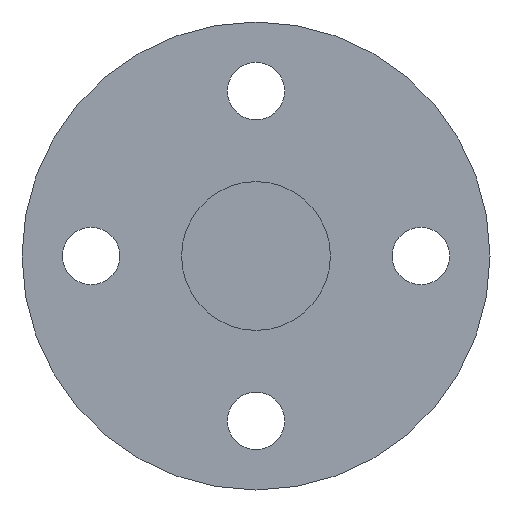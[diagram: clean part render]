
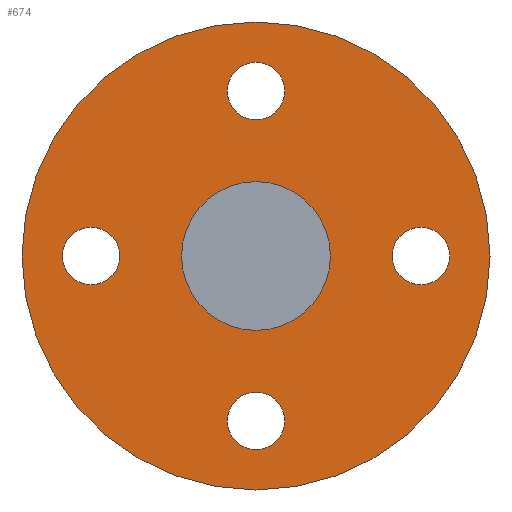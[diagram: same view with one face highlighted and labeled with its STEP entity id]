
A CAD part, left-side view. The second image highlights one B-rep face of the part: STEP entity #674.
In plain terms, the highlighted planar face has unit normal (-1, 0, 0).
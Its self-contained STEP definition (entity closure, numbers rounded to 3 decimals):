
#563=CARTESIAN_POINT('',(135.0,15.5,-2.7));
#564=VERTEX_POINT('',#563);
#565=CARTESIAN_POINT('',(135.0,15.5,0.));
#566=DIRECTION('',(1.0,0.0,0.0));
#567=DIRECTION('',(0.0,0.0,-1.0));
#568=AXIS2_PLACEMENT_3D('',#565,#566,#567);
#569=CIRCLE('',#568,2.7);
#570=EDGE_CURVE('',#564,#564,#569,.T.);
#583=CARTESIAN_POINT('',(135.0,-2.7,-15.5));
#584=VERTEX_POINT('',#583);
#585=CARTESIAN_POINT('',(135.0,0.,-15.5));
#586=DIRECTION('',(1.0,0.0,0.0));
#587=DIRECTION('',(0.0,-1.0,0.0));
#588=AXIS2_PLACEMENT_3D('',#585,#586,#587);
#589=CIRCLE('',#588,2.7);
#590=EDGE_CURVE('',#584,#584,#589,.T.);
#603=CARTESIAN_POINT('',(135.0,-15.5,2.7));
#604=VERTEX_POINT('',#603);
#605=CARTESIAN_POINT('',(135.0,-15.5,0.));
#606=DIRECTION('',(1.0,0.0,0.0));
#607=DIRECTION('',(0.0,0.0,1.0));
#608=AXIS2_PLACEMENT_3D('',#605,#606,#607);
#609=CIRCLE('',#608,2.7);
#610=EDGE_CURVE('',#604,#604,#609,.T.);
#623=CARTESIAN_POINT('',(135.0,2.7,15.5));
#624=VERTEX_POINT('',#623);
#625=CARTESIAN_POINT('',(135.0,0.0,15.5));
#626=DIRECTION('',(1.0,0.0,0.0));
#627=DIRECTION('',(0.0,1.0,0.0));
#628=AXIS2_PLACEMENT_3D('',#625,#626,#627);
#629=CIRCLE('',#628,2.7);
#630=EDGE_CURVE('',#624,#624,#629,.T.);
#635=CARTESIAN_POINT('',(135.0,0.0,14.5));
#636=DIRECTION('',(-1.0,0.0,0.0));
#637=DIRECTION('',(0.0,0.0,1.0));
#638=AXIS2_PLACEMENT_3D('',#635,#636,#637);
#639=PLANE('',#638);
#640=CARTESIAN_POINT('',(135.0,0.0,22.0));
#641=VERTEX_POINT('',#640);
#642=CARTESIAN_POINT('',(135.0,0.0,0.0));
#643=DIRECTION('',(-1.0,0.0,0.0));
#644=DIRECTION('',(0.0,0.0,1.0));
#645=AXIS2_PLACEMENT_3D('',#642,#643,#644);
#646=CIRCLE('',#645,22.0);
#647=EDGE_CURVE('',#641,#641,#646,.T.);
#648=ORIENTED_EDGE('',*,*,#647,.T.);
#649=EDGE_LOOP('',(#648));
#650=FACE_OUTER_BOUND('',#649,.T.);
#651=ORIENTED_EDGE('',*,*,#570,.T.);
#652=EDGE_LOOP('',(#651));
#653=FACE_BOUND('',#652,.T.);
#654=ORIENTED_EDGE('',*,*,#590,.T.);
#655=EDGE_LOOP('',(#654));
#656=FACE_BOUND('',#655,.T.);
#657=ORIENTED_EDGE('',*,*,#610,.T.);
#658=EDGE_LOOP('',(#657));
#659=FACE_BOUND('',#658,.T.);
#660=ORIENTED_EDGE('',*,*,#630,.T.);
#661=EDGE_LOOP('',(#660));
#662=FACE_BOUND('',#661,.T.);
#663=CARTESIAN_POINT('',(135.0,0.0,7.));
#664=VERTEX_POINT('',#663);
#665=CARTESIAN_POINT('',(135.0,0.0,0.0));
#666=DIRECTION('',(-1.0,0.0,0.0));
#667=DIRECTION('',(0.0,0.0,1.0));
#668=AXIS2_PLACEMENT_3D('',#665,#666,#667);
#669=CIRCLE('',#668,7.);
#670=EDGE_CURVE('',#664,#664,#669,.T.);
#671=ORIENTED_EDGE('',*,*,#670,.F.);
#672=EDGE_LOOP('',(#671));
#673=FACE_BOUND('',#672,.T.);
#674=ADVANCED_FACE('',(#650,#653,#656,#659,#662,#673),#639,.T.);
